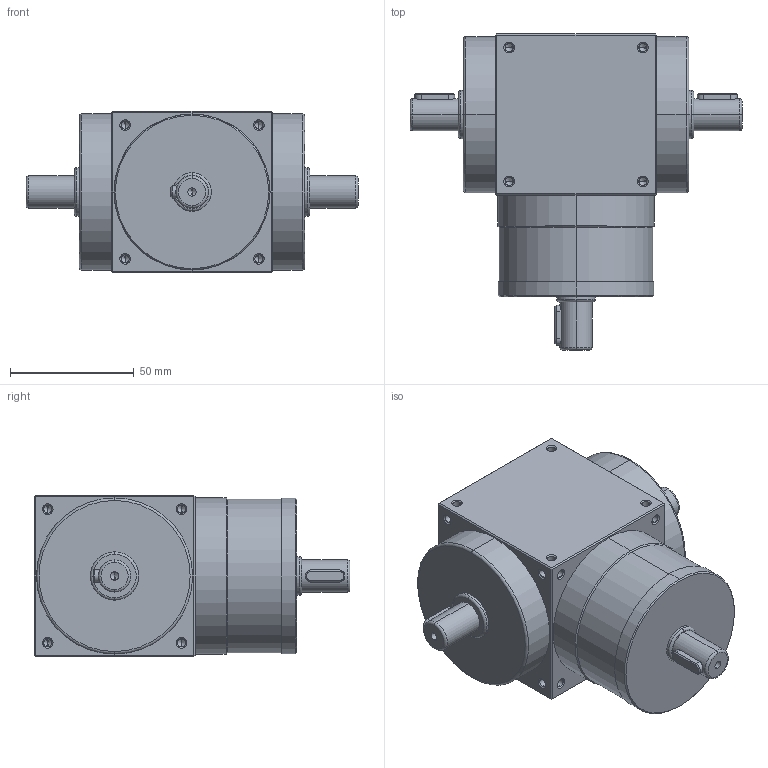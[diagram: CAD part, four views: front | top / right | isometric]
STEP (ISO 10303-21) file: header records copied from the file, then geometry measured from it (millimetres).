
FILE_DESCRIPTION (( 'STEP AP214' ), '1' );
FILE_NAME ('AT065-L-001.STEP', '2019-11-06T02:56:40', ( 'User' ), ( 'Far123' ), 'SwSTEP 2.0', 'SolidWorks 2015', '' );
FILE_SCHEMA (( 'AUTOMOTIVE_DESIGN' ));
Length unit declared in the file: millimetre
Products named in the file (1): AT065-L-001
Bounding box: 134 x 127.5 x 65 mm (x, y, z)
Volume: 488705.8 mm3; surface area: 43260 mm2
Topology: 1 solids, 2 shells, 313 faces, 792 edges, 437 vertices
Faces by surface type: cylinder 132, cone 112, plane 53, torus 16
Entity records: 10216 total; most frequent: CARTESIAN_POINT 2157, ORIENTED_EDGE 1476, DIRECTION 1450, EDGE_CURVE 738, AXIS2_PLACEMENT_3D 564, VERTEX_POINT 437, EDGE_LOOP 353, LINE 322
